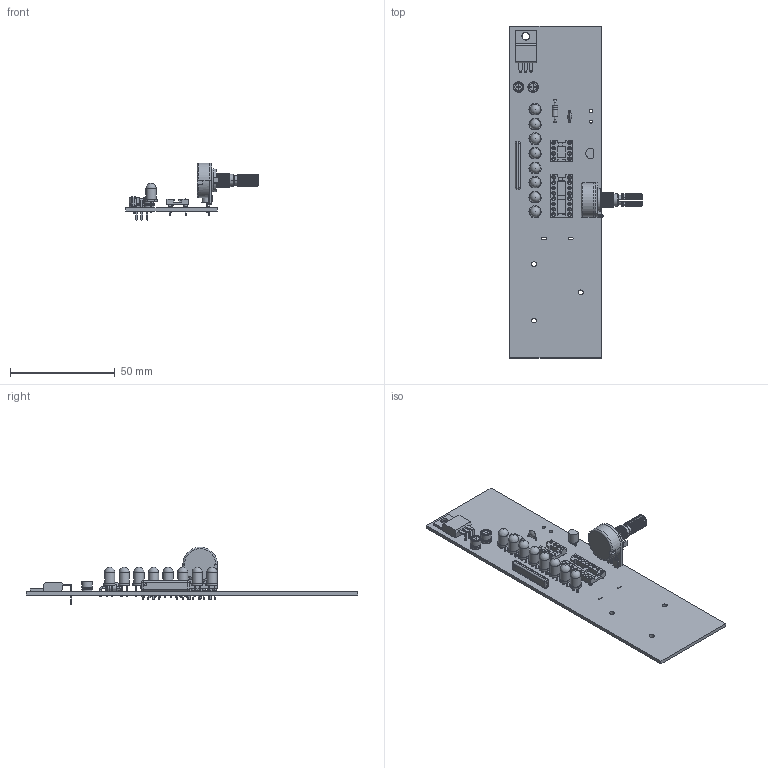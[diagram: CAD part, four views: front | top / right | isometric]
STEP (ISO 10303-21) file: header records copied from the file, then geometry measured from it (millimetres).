
FILE_DESCRIPTION(('KiCad electronic assembly'),'2;1');
FILE_NAME('Nothing.step','2021-08-06T19:46:47',('An Author'),( 'A Company'),'Open CASCADE STEP processor 6.9', 'KiCad to STEP converter','Unknown');
FILE_SCHEMA(('AUTOMOTIVE_DESIGN { 1 0 10303 214 1 1 1 1 }'));
Length unit declared in the file: millimetre
Products named in the file (22): Open CASCADE STEP translator 6.9 1; TO-220-3_Horizontal_TabDown; SOLID; D_DO-41_SOD81_P10.16mm_Horizontal; CP_Radial_D5.0mm_P2.00mm; Potentiometer; COMPOUND; DIP-8_W7.62mm_Socket; DIP-16_W7.62mm_Socket; R_Array_SIP9; LED_D5.0mm; C_Disc_D4.3mm_W1.9mm_P5.00mm; TO-92_Inline
Assembly tree (29 placements, depth 3):
  Open CASCADE STEP translator 6.9 1
    TO-220-3_Horizontal_TabDown
      SOLID
    D_DO-41_SOD81_P10.16mm_Horizontal
      SOLID
    CP_Radial_D5.0mm_P2.00mm  x2
      SOLID
    Potentiometer
      COMPOUND
    DIP-8_W7.62mm_Socket
      SOLID
    DIP-16_W7.62mm_Socket
      SOLID
    R_Array_SIP9
      SOLID
    LED_D5.0mm  x8
      SOLID
    C_Disc_D4.3mm_W1.9mm_P5.00mm
      SOLID
    TO-92_Inline
      SOLID
    COMPOUND
Bounding box: 63.31 x 158.75 x 27.58 mm (x, y, z)
Volume: 16345.7 mm3; surface area: 21835.2 mm2
Topology: 27 solids, 29 shells, 1192 faces, 2751 edges, 1770 vertices
Faces by surface type: plane 673, cylinder 376, cone 80, sphere 22, bspline 15, torus 14, revolution 12
Full cylindrical faces by diameter (mm): 0.5 x8, 0.508 x48, 0.75 x3, 0.8 x43, 0.9 x16, 1 x4, 1.1 x5, 1.52 x2, 1.524 x24, 1.724 x24, 2.29 x3, 2.7 x2, 2.72 x1, 3.5 x1, 3.735 x1, 4.9 x8
Entity records: 75146 total; most frequent: CARTESIAN_POINT 21449, DIRECTION 9109, LINE 4995, VECTOR 4995, ORIENTED_EDGE 4752, PCURVE 4752, DEFINITIONAL_REPRESENTATION 4752, EDGE_CURVE 2376
